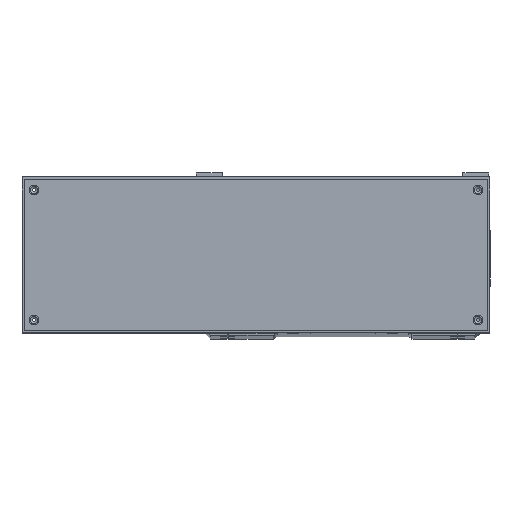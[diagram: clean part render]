
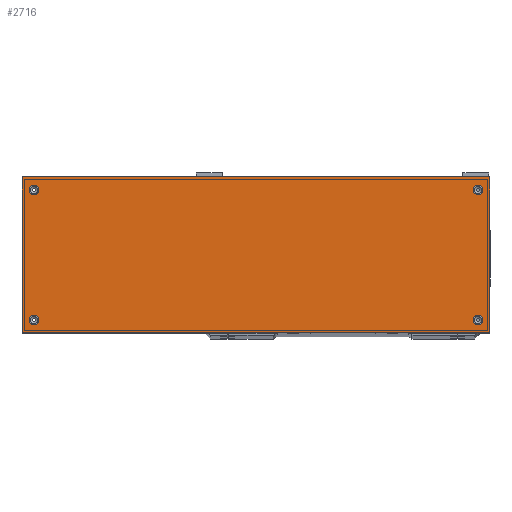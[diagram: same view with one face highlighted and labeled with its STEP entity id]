
A CAD part, top view. The second image highlights one B-rep face of the part: STEP entity #2716.
In plain terms, the highlighted planar face has unit normal (0, 0, 1).
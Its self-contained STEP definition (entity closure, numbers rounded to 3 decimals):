
#932=FACE_BOUND('',#4683,.T.);
#933=FACE_BOUND('',#4684,.T.);
#934=FACE_BOUND('',#4685,.T.);
#935=FACE_BOUND('',#4686,.T.);
#936=FACE_BOUND('',#4687,.T.);
#2018=CIRCLE('',#16653,2.25);
#2020=CIRCLE('',#16656,2.25);
#2022=CIRCLE('',#16659,2.25);
#2024=CIRCLE('',#16662,2.25);
#2716=ADVANCED_FACE('',(#932,#933,#934,#935,#936),#3473,.F.);
#3473=PLANE('',#16668);
#4683=EDGE_LOOP('',(#7227));
#4684=EDGE_LOOP('',(#7228));
#4685=EDGE_LOOP('',(#7229));
#4686=EDGE_LOOP('',(#7230));
#4687=EDGE_LOOP('',(#7231,#7232,#7233,#7234));
#7227=ORIENTED_EDGE('',*,*,#12658,.F.);
#7228=ORIENTED_EDGE('',*,*,#12660,.F.);
#7229=ORIENTED_EDGE('',*,*,#12662,.F.);
#7230=ORIENTED_EDGE('',*,*,#12664,.F.);
#7231=ORIENTED_EDGE('',*,*,#12416,.F.);
#7232=ORIENTED_EDGE('',*,*,#12674,.F.);
#7233=ORIENTED_EDGE('',*,*,#12665,.F.);
#7234=ORIENTED_EDGE('',*,*,#12443,.F.);
#10658=VERTEX_POINT('',#24843);
#10659=VERTEX_POINT('',#24845);
#10674=VERTEX_POINT('',#24890);
#10820=VERTEX_POINT('',#25783);
#10822=VERTEX_POINT('',#25788);
#10824=VERTEX_POINT('',#25793);
#10826=VERTEX_POINT('',#25798);
#10827=VERTEX_POINT('',#25801);
#12416=EDGE_CURVE('',#10658,#10659,#14203,.T.);
#12443=EDGE_CURVE('',#10659,#10674,#14228,.T.);
#12658=EDGE_CURVE('',#10820,#10820,#2018,.T.);
#12660=EDGE_CURVE('',#10822,#10822,#2020,.T.);
#12662=EDGE_CURVE('',#10824,#10824,#2022,.T.);
#12664=EDGE_CURVE('',#10826,#10826,#2024,.T.);
#12665=EDGE_CURVE('',#10674,#10827,#14337,.T.);
#12674=EDGE_CURVE('',#10827,#10658,#14344,.T.);
#14203=LINE('',#24844,#15325);
#14228=LINE('',#24889,#15350);
#14337=LINE('',#25800,#15459);
#14344=LINE('',#25817,#15466);
#15325=VECTOR('',#19146,1.);
#15350=VECTOR('',#19181,1.);
#15459=VECTOR('',#19632,1.);
#15466=VECTOR('',#19645,1.);
#16653=AXIS2_PLACEMENT_3D('',#25782,#19610,#19611);
#16656=AXIS2_PLACEMENT_3D('',#25787,#19616,#19617);
#16659=AXIS2_PLACEMENT_3D('',#25792,#19622,#19623);
#16662=AXIS2_PLACEMENT_3D('',#25797,#19628,#19629);
#16668=AXIS2_PLACEMENT_3D('',#25824,#19651,#19652);
#19146=DIRECTION('',(0.,-1.,0.));
#19181=DIRECTION('',(-1.,0.,0.));
#19610=DIRECTION('',(0.,0.,1.));
#19611=DIRECTION('',(-1.,0.,0.));
#19616=DIRECTION('',(0.,0.,1.));
#19617=DIRECTION('',(1.,0.,0.));
#19622=DIRECTION('',(0.,0.,1.));
#19623=DIRECTION('',(-1.,0.,0.));
#19628=DIRECTION('',(0.,0.,1.));
#19629=DIRECTION('',(1.,0.,0.));
#19632=DIRECTION('',(0.,1.,0.));
#19645=DIRECTION('',(1.,0.,0.));
#19651=DIRECTION('',(0.,0.,-1.));
#19652=DIRECTION('',(1.,0.,0.));
#24843=CARTESIAN_POINT('',(68.,72.,193.));
#24844=CARTESIAN_POINT('',(68.,72.,193.));
#24845=CARTESIAN_POINT('',(68.,0.,193.));
#24889=CARTESIAN_POINT('',(68.,0.,193.));
#24890=CARTESIAN_POINT('',(-148.,0.,193.));
#25782=CARTESIAN_POINT('',(-142.5,6.,193.));
#25783=CARTESIAN_POINT('',(-144.75,6.,193.));
#25787=CARTESIAN_POINT('',(62.5,6.,193.));
#25788=CARTESIAN_POINT('',(64.75,6.,193.));
#25792=CARTESIAN_POINT('',(62.5,66.,193.));
#25793=CARTESIAN_POINT('',(60.25,66.,193.));
#25797=CARTESIAN_POINT('',(-142.5,66.,193.));
#25798=CARTESIAN_POINT('',(-140.25,66.,193.));
#25800=CARTESIAN_POINT('',(-148.,72.,193.));
#25801=CARTESIAN_POINT('',(-148.,72.,193.));
#25817=CARTESIAN_POINT('',(68.,72.,193.));
#25824=CARTESIAN_POINT('',(-40.,36.,193.));
